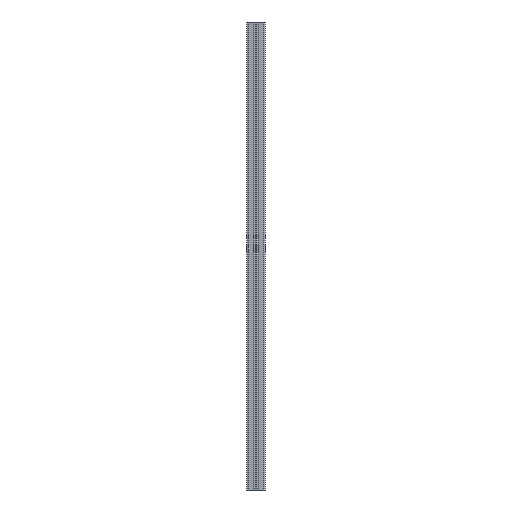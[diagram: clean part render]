
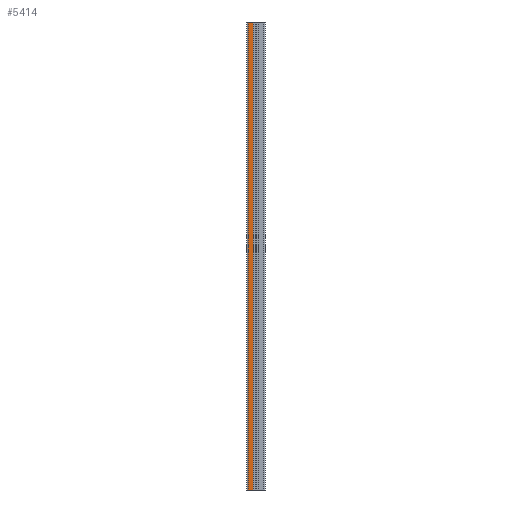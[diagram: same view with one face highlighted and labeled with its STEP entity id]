
A CAD part, left-side view. The second image highlights one B-rep face of the part: STEP entity #5414.
In plain terms, the highlighted planar face has unit normal (-1, 0, 0).
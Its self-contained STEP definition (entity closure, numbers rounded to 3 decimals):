
#45 = ORIENTED_EDGE ( 'NONE', *, *, #994, .T. ) ;
#118 = CARTESIAN_POINT ( 'NONE',  ( 13.278, 38.925, 0. ) ) ;
#382 = VECTOR ( 'NONE', #1014, 1000. ) ;
#419 = ORIENTED_EDGE ( 'NONE', *, *, #1312, .F. ) ;
#515 = VERTEX_POINT ( 'NONE', #691 ) ;
#691 = CARTESIAN_POINT ( 'NONE',  ( 13.278, 38.925, 1000. ) ) ;
#797 = VERTEX_POINT ( 'NONE', #4694 ) ;
#900 = AXIS2_PLACEMENT_3D ( 'NONE', #2987, #1276, #4326 ) ;
#990 = VECTOR ( 'NONE', #1629, 1000. ) ;
#994 = EDGE_CURVE ( 'NONE', #515, #797, #2133, .T. ) ;
#1014 = DIRECTION ( 'NONE',  ( 0., -1., 0. ) ) ;
#1276 = DIRECTION ( 'NONE',  ( 1., 0., 0. ) ) ;
#1312 = EDGE_CURVE ( 'NONE', #515, #2368, #5044, .T. ) ;
#1527 = ORIENTED_EDGE ( 'NONE', *, *, #3664, .F. ) ;
#1629 = DIRECTION ( 'NONE',  ( 0., 0., -1. ) ) ;
#1659 = CARTESIAN_POINT ( 'NONE',  ( 13.278, 28.025, 1000. ) ) ;
#2133 = LINE ( 'NONE', #3375, #990 ) ;
#2138 = DIRECTION ( 'NONE',  ( 0., 0., -1. ) ) ;
#2368 = VERTEX_POINT ( 'NONE', #1659 ) ;
#2383 = ORIENTED_EDGE ( 'NONE', *, *, #2524, .T. ) ;
#2486 = FACE_OUTER_BOUND ( 'NONE', #4865, .T. ) ;
#2524 = EDGE_CURVE ( 'NONE', #797, #2707, #4224, .T. ) ;
#2707 = VERTEX_POINT ( 'NONE', #4504 ) ;
#2813 = VECTOR ( 'NONE', #2138, 1000. ) ;
#2987 = CARTESIAN_POINT ( 'NONE',  ( 13.278, 38.925, 1000. ) ) ;
#3038 = VECTOR ( 'NONE', #4473, 1000. ) ;
#3375 = CARTESIAN_POINT ( 'NONE',  ( 13.278, 38.925, 1000. ) ) ;
#3446 = PLANE ( 'NONE',  #900 ) ;
#3536 = CARTESIAN_POINT ( 'NONE',  ( 13.278, 38.925, 1000. ) ) ;
#3664 = EDGE_CURVE ( 'NONE', #2368, #2707, #3863, .T. ) ;
#3863 = LINE ( 'NONE', #5228, #2813 ) ;
#4224 = LINE ( 'NONE', #118, #3038 ) ;
#4326 = DIRECTION ( 'NONE',  ( 0., 1., 0. ) ) ;
#4473 = DIRECTION ( 'NONE',  ( 0., -1., 0. ) ) ;
#4504 = CARTESIAN_POINT ( 'NONE',  ( 13.278, 28.025, 0. ) ) ;
#4694 = CARTESIAN_POINT ( 'NONE',  ( 13.278, 38.925, 0. ) ) ;
#4865 = EDGE_LOOP ( 'NONE', ( #2383, #1527, #419, #45 ) ) ;
#5044 = LINE ( 'NONE', #3536, #382 ) ;
#5228 = CARTESIAN_POINT ( 'NONE',  ( 13.278, 28.025, 1000. ) ) ;
#5414 = ADVANCED_FACE ( 'NONE', ( #2486 ), #3446, .F. ) ;
